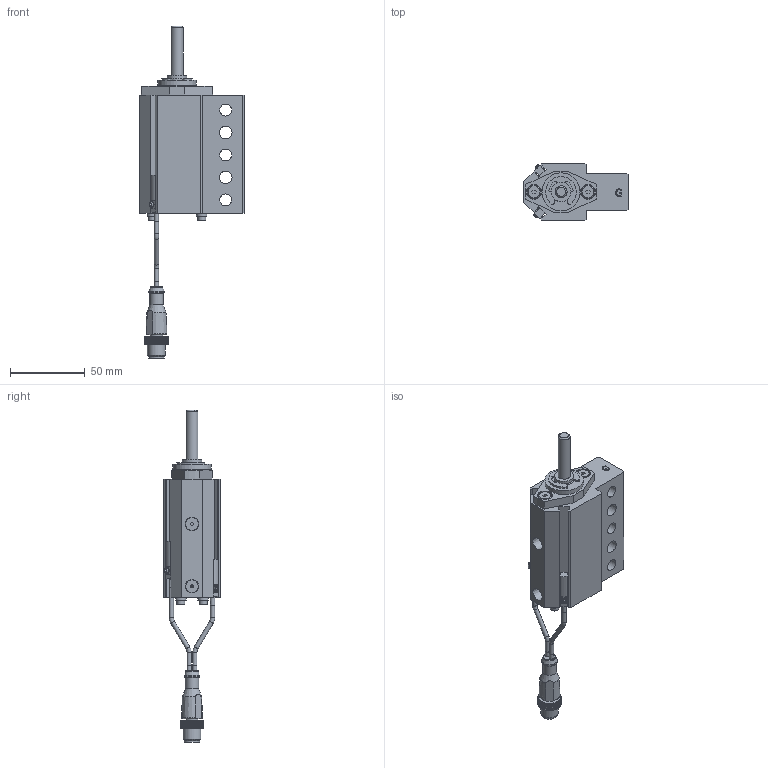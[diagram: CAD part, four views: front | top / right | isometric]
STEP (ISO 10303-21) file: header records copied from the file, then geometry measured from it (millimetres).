
FILE_DESCRIPTION(/* description */ ('NAAMS FLOATING MICRO PIN'),/* implementation_level */ '2;1');
FILE_NAME(/* name */ 'C:\Vault Workspace\CAD\Welker\Shot Pin\NMP\NMP080032EGNL3.stp',/* time_stamp */ '2021-01-28T11:53:57-05:00',/* author */ ('WELKER'),/* organization */ (''),/* preprocessor_version */ 'ST-DEVELOPER v18.1',/* originating_system */ 'Autodesk Inventor 2020',/* authorisation */ '');
FILE_SCHEMA (('AUTOMOTIVE_DESIGN { 1 0 10303 214 3 1 1 }'));
Length unit declared in the file: millimetre
Products named in the file (16): NMPL01; NMP L3 SWITCH; L3 Connector; L3 Sensor 1; L3 Sensor 2; L3 Sensor cable; L3 Sensor cable 2; M3X0.5-8 SHCS; NL3; NMPE06; NMPE03; NMPE04-DIA-LENGTH; 985432A218; NMPE01G-PORT; RMPE02; M5X5 SHOULDER
Assembly tree (22 placements, depth 3):
  NMPL01
    NMP L3 SWITCH
      L3 Connector
      L3 Sensor 1
      L3 Sensor 2
      L3 Sensor cable
      L3 Sensor cable 2
    M3X0.5-8 SHCS  x4
    NL3  x4
    NMPE06
    NMPE03
    NMPE04-DIA-LENGTH
    985432A218
    NMPE01G-PORT
    RMPE02
    M5X5 SHOULDER  x2
Bounding box: 70 x 38.1 x 221.52 mm (x, y, z)
Volume: 132477.9 mm3; surface area: 49836.1 mm2
Topology: 21 solids, 21 shells, 760 faces, 2087 edges, 1399 vertices
Faces by surface type: plane 547, cylinder 149, cone 35, bspline 16, torus 11, sphere 2
Full cylindrical faces by diameter (mm): 2 x2, 2.459 x4, 2.9 x10, 3 x5, 3.242 x2, 3.4 x4, 4 x2, 5 x6, 5.5 x4, 6.647 x2, 7 x4, 8 x6, 8.3 x2, 8.5 x2, 9 x3, 10 x3, 10.4 x1, 10.5 x1, 12 x1, 13 x3, 16 x2, 19.05 x3, 21 x1, 22.5 x1, 23.673 x1, 24 x1, 25.4 x1, 25.5 x1, 26.5 x1, 28.677 x1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
Entity records: 23755 total; most frequent: CARTESIAN_POINT 4682, ORIENTED_EDGE 3864, DIRECTION 3765, EDGE_CURVE 1932, LINE 1391, VECTOR 1391, VERTEX_POINT 1304, AXIS2_PLACEMENT_3D 1187
